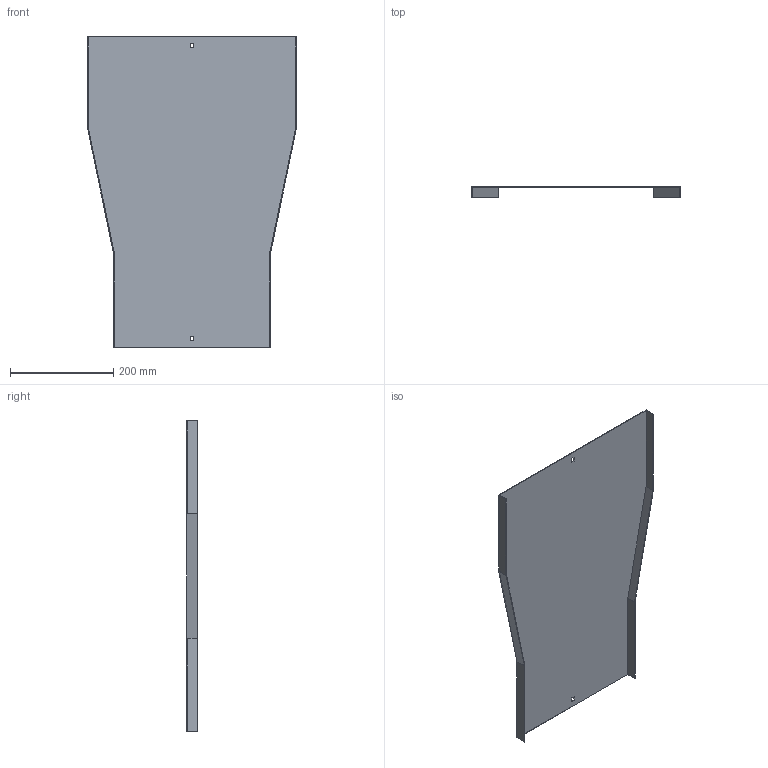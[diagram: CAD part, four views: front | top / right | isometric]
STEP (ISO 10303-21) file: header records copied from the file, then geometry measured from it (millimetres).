
FILE_DESCRIPTION (( 'STEP AP214' ), '1' );
FILE_NAME ('B2X20N3R400X.step', '2025-09-02T15:43:59', ( '' ), ( '' ), 'SwSTEP 2.0', 'SolidWorks 2023', '' );
FILE_SCHEMA (( 'AUTOMOTIVE_DESIGN' ));
Length unit declared in the file: millimetre
Products named in the file (1): B2X20N3R400X
Bounding box: 403 x 20 x 600 mm (x, y, z)
Volume: 351110.5 mm3; surface area: 471225.8 mm2
Topology: 1 solids, 1 shells, 26 faces, 72 edges, 48 vertices
Faces by surface type: plane 26
Entity records: 847 total; most frequent: CARTESIAN_POINT 147, ORIENTED_EDGE 144, DIRECTION 126, VECTOR 72, LINE 72, EDGE_CURVE 72, VERTEX_POINT 48, EDGE_LOOP 30
